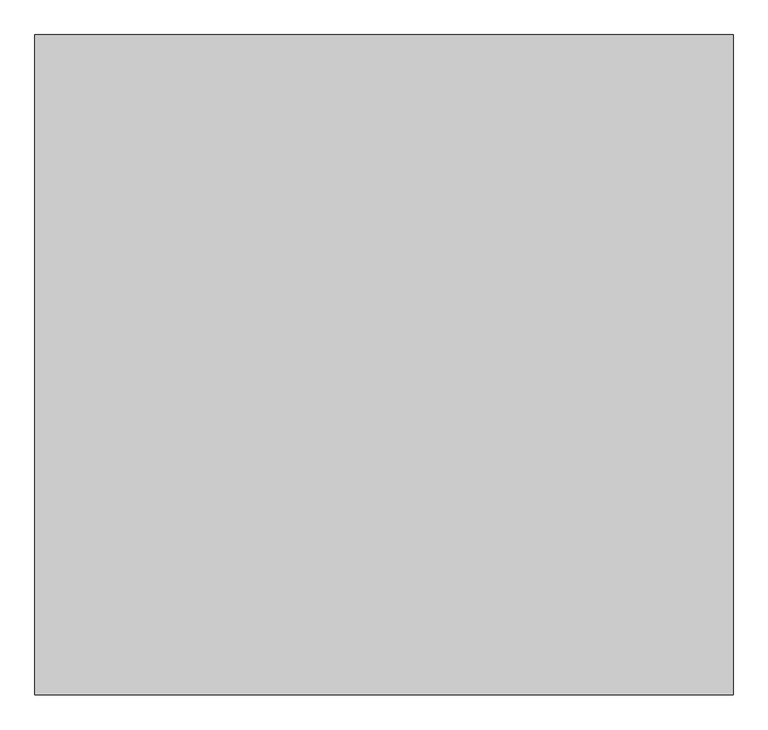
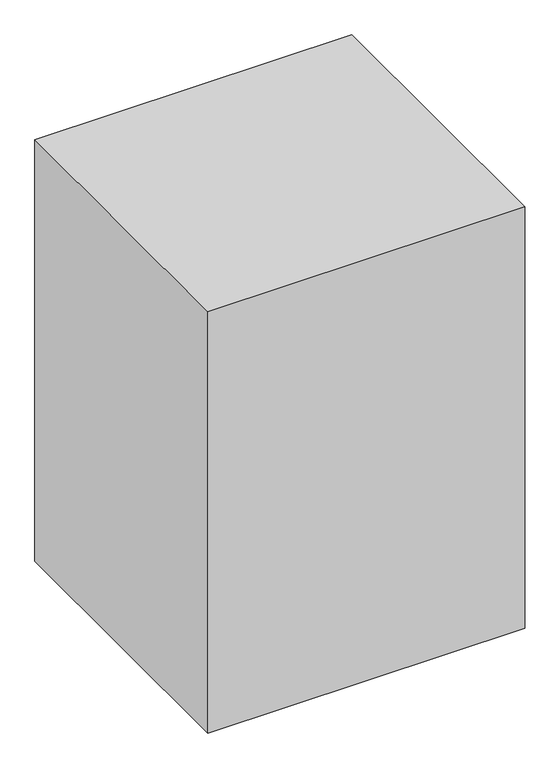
"""IFC4 building model written with IfcOpenShell, lengths in millimetres: proxy geometry."""

from ifc_helpers import new_model, si_unit, origin, origin_with_axes, place, context, project, spatial, polyline, outline, extrude, source, transform, mapped, element, save


def generic_models_1aa93663(model_context):
    return source(origin(), model_context, "Body", "SweptSolid", [
        extrude(outline(polyline([(-94920.0, -26250.7903364), (-94920.0, -28000.7903364), (-96770.0, -28000.7903364), (-96770.0, -26250.7903364), (-94920.0, -26250.7903364)])), origin_with_axes(), (0.0, 0.0, 1.0), 2600.0),
    ])


if __name__ == "__main__":
    model = new_model("IFC4")
    model_context = context("Model", 3, world=origin())
    ifc_project = project(units=[si_unit("LENGTHUNIT", "METRE", prefix="MILLI")], contexts=[model_context])
    site = spatial("IfcSite", under=ifc_project)
    building = spatial("IfcBuilding", under=site)
    placement = place(None, origin())
    generic_models_shape = generic_models_1aa93663(model_context)
    element("IfcBuildingElementProxy", 1, Name="Generic Models", at=placement, inside=building, context=model_context, shape_type="MappedRepresentation", body=[
        mapped(generic_models_shape, transform((0.0, 0.0, 0.0), x_axis=(1.0, 0.0, 0.0), y_axis=(0.0, 1.0, 0.0), z_axis=(0.0, 0.0, 1.0))),
    ])
    save(model, "model.ifc")
